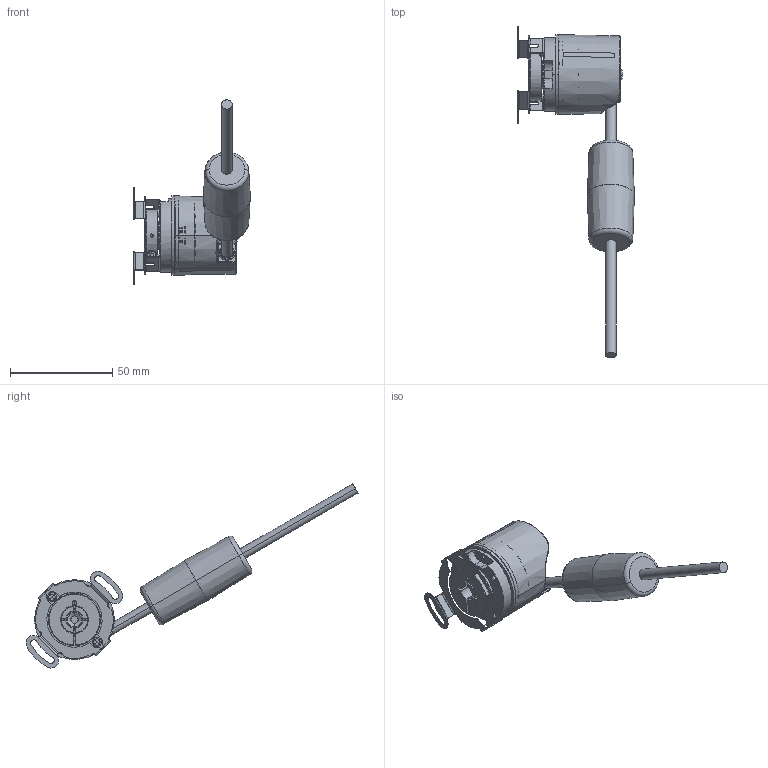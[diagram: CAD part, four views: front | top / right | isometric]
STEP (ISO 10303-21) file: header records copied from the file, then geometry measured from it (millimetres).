
FILE_DESCRIPTION (( 'STEP AP203' ), '1' );
FILE_NAME ('F3688.2721.XXXX.STEP', '2011-09-28T06:06:34', ( 'Hodot' ), ( 'Kuebler' ), 'SwSTEP 2.0', 'SolidWorks 2009', '' );
FILE_SCHEMA (( 'CONFIG_CONTROL_DESIGN' ));
Length unit declared in the file: millimetre
Products named in the file (1): F3688.2721.XXXX
Bounding box: 57.1 x 162.4 x 90.11 mm (x, y, z)
Volume: 28215.2 mm3; surface area: 34634.5 mm2
Topology: 12 solids, 13 shells, 1384 faces, 3393 edges, 2078 vertices
Faces by surface type: plane 432, cylinder 345, bspline 289, cone 166, torus 142, sphere 10
Entity records: 55183 total; most frequent: CARTESIAN_POINT 24128, ORIENTED_EDGE 6748, DIRECTION 6012, EDGE_CURVE 3374, AXIS2_PLACEMENT_3D 2314, VERTEX_POINT 2078, EDGE_LOOP 1476, LINE 1384
